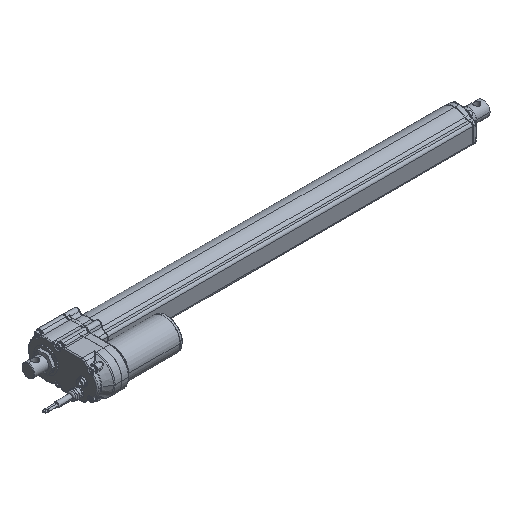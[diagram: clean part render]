
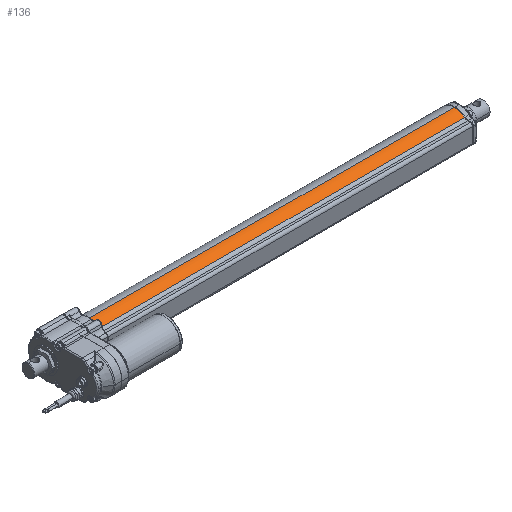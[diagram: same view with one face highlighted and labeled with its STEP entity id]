
A CAD part, isometric view. The second image highlights one B-rep face of the part: STEP entity #136.
In plain terms, the highlighted cylindrical face has radius 30.5 mm (diameter 61 mm), a partial arc.
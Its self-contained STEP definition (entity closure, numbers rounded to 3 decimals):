
#136=ADVANCED_FACE('',(#1138),#1139,.T.);
#1138=FACE_OUTER_BOUND('',#3063,.T.);
#1139=CYLINDRICAL_SURFACE('',#3064,30.5);
#3063=EDGE_LOOP('',(#8479,#8480,#8481,#8482));
#3064=AXIS2_PLACEMENT_3D('',#8483,#8484,#8485);
#8479=ORIENTED_EDGE('',*,*,#15518,.F.);
#8480=ORIENTED_EDGE('',*,*,#15519,.F.);
#8481=ORIENTED_EDGE('',*,*,#15520,.T.);
#8482=ORIENTED_EDGE('',*,*,#15521,.F.);
#8483=CARTESIAN_POINT('',(94.3,0.,0.));
#8484=DIRECTION('',(1.0,0.,0.));
#8485=DIRECTION('',(0.,0.,1.0));
#15518=EDGE_CURVE('',#18125,#18126,#18127,.T.);
#15519=EDGE_CURVE('',#18128,#18125,#18129,.T.);
#15520=EDGE_CURVE('',#18128,#18130,#18131,.T.);
#15521=EDGE_CURVE('',#18126,#18130,#18132,.T.);
#18125=VERTEX_POINT('',#23105);
#18126=VERTEX_POINT('',#23106);
#18127=LINE('',#23107,#23108);
#18128=VERTEX_POINT('',#23109);
#18129=CIRCLE('',#23110,30.5);
#18130=VERTEX_POINT('',#23111);
#18131=LINE('',#23112,#23113);
#18132=CIRCLE('',#23114,30.5);
#23105=CARTESIAN_POINT('',(94.3,0.,30.5));
#23106=CARTESIAN_POINT('',(839.5,0.,30.5));
#23107=CARTESIAN_POINT('',(94.3,0.,30.5));
#23108=VECTOR('',#38996,1.0);
#23109=CARTESIAN_POINT('',(94.3,-20.49,22.593));
#23110=AXIS2_PLACEMENT_3D('',#38997,#38998,#38999);
#23111=CARTESIAN_POINT('',(839.5,-20.49,22.593));
#23112=CARTESIAN_POINT('',(94.3,-20.49,22.593));
#23113=VECTOR('',#39000,1.0);
#23114=AXIS2_PLACEMENT_3D('',#39001,#39002,#39003);
#38996=DIRECTION('',(1.0,0.,0.));
#38997=CARTESIAN_POINT('',(94.3,0.,0.));
#38998=DIRECTION('',(-1.0,0.,0.));
#38999=DIRECTION('',(0.,0.,1.0));
#39000=DIRECTION('',(1.0,0.,0.));
#39001=CARTESIAN_POINT('',(839.5,0.,0.));
#39002=DIRECTION('',(1.0,0.,0.));
#39003=DIRECTION('',(0.,0.,1.0));
